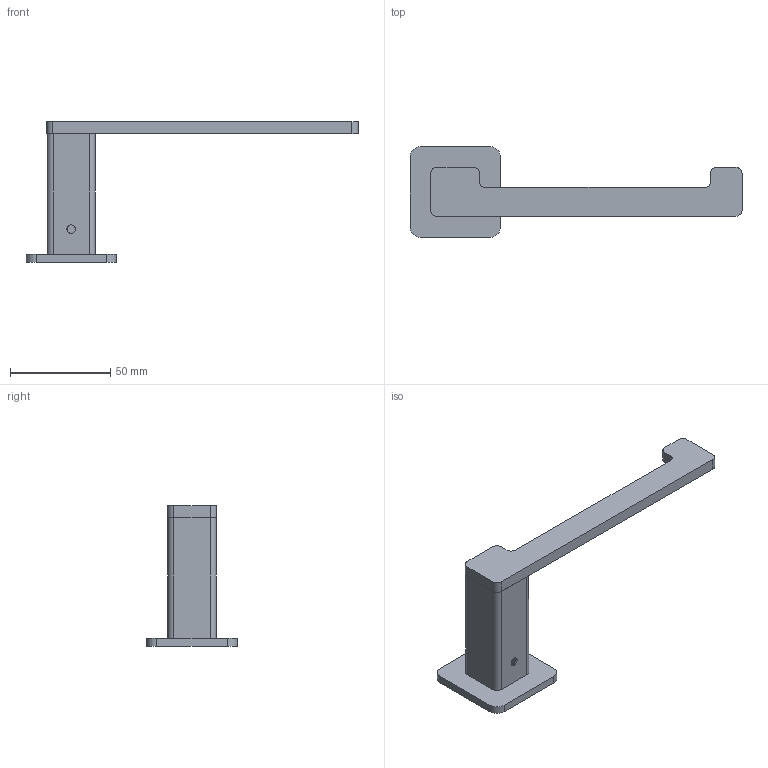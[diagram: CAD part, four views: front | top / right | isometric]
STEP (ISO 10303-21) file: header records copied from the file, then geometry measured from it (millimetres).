
FILE_DESCRIPTION(/* description */ (''),/* implementation_level */ '2;1');
FILE_NAME(/* name */ 'c:\worker\convert-fusion-apr-2019\tmp\job-1\3\output\files\e0b5c38d-6ed9-4571-afa2-f6f3e1c450be\cc598619-9718-4a55-87e8-2977d42fa984.zip.stp',/* time_stamp */ '2019-04-10T10:42:34+00:00',/* author */ (''),/* organization */ (''),/* preprocessor_version */ 'ST-DEVELOPER v18',/* originating_system */ 'Autodesk Translation Framework v8.2.0.1029',/* authorisation */ '');
FILE_SCHEMA (('AUTOMOTIVE_DESIGN { 1 0 10303 214 3 1 1 }'));
Length unit declared in the file: millimetre
Products named in the file (1): !NL80510
Bounding box: 165.35 x 45 x 70 mm (x, y, z)
Volume: 28808.9 mm3; surface area: 22936 mm2
Topology: 3 solids, 3 shells, 53 faces, 140 edges, 96 vertices
Faces by surface type: plane 29, cylinder 24
Full cylindrical faces by diameter (mm): 2.5 x2, 4.2 x2
Entity records: 1713 total; most frequent: DIRECTION 304, CARTESIAN_POINT 290, ORIENTED_EDGE 280, EDGE_CURVE 140, AXIS2_PLACEMENT_3D 110, VERTEX_POINT 96, LINE 84, VECTOR 84
